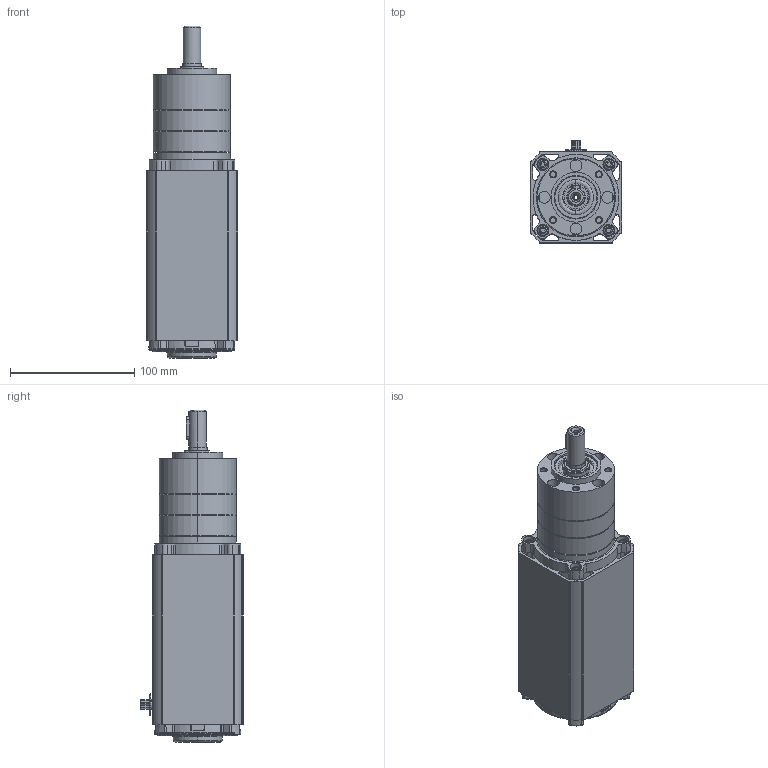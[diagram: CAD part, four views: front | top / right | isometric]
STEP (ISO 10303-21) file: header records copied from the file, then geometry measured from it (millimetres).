
FILE_DESCRIPTION (( 'STEP AP214' ), '1' );
FILE_NAME ('BL6560-PL6200i_2S.STEP', '2013-03-04T16:29:26', ( '' ), ( '' ), 'SwSTEP 2.0', 'SolidWorks 2013', '' );
FILE_SCHEMA (( 'AUTOMOTIVE_DESIGN' ));
Length unit declared in the file: inch
Products named in the file (1): BL6560-PL6200i_2S
Bounding box: 73.36 x 82.37 x 266.69 mm (x, y, z)
Surface area: 123291.8 mm2 (no closed solid volume)
Topology: 0 solids, 56 shells, 908 faces, 3144 edges, 2250 vertices
Faces by surface type: cylinder 372, plane 256, cone 105, torus 100, bspline 68, sphere 7
Entity records: 51391 total; most frequent: CARTESIAN_POINT 13053, DIRECTION 5607, ORIENTED_EDGE 5082, EDGE_CURVE 3137, VERTEX_POINT 2250, AXIS2_PLACEMENT_3D 2130, VECTOR 1347, LINE 1347
